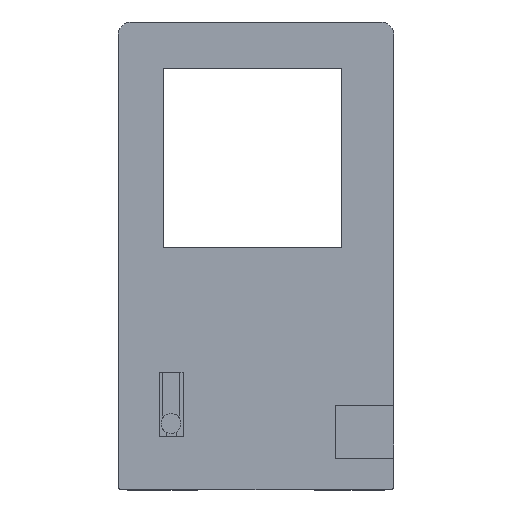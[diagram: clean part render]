
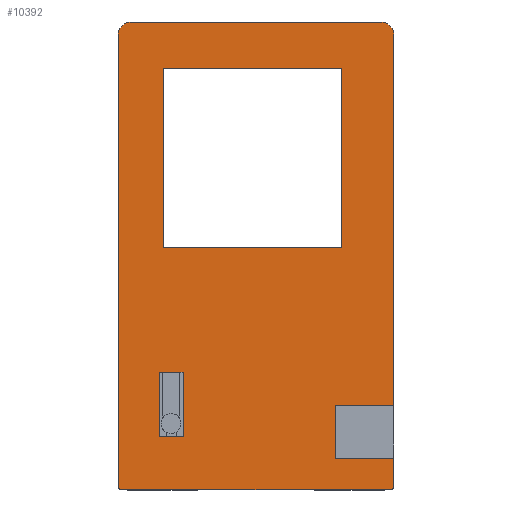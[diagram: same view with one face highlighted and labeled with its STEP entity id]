
A CAD part, top view. The second image highlights one B-rep face of the part: STEP entity #10392.
In plain terms, the highlighted planar face has unit normal (0, 0, 1).
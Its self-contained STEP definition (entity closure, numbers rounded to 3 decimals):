
#10296 = VERTEX_POINT('',#10297);
#10297 = CARTESIAN_POINT('',(16.8,-117.8,15.));
#10344 = VERTEX_POINT('',#10345);
#10345 = CARTESIAN_POINT('',(9.5,-117.8,15.));
#10351 = EDGE_CURVE('',#10296,#10344,#10352,.T.);
#10352 = LINE('',#10353,#10354);
#10353 = CARTESIAN_POINT('',(24.25,-117.8,15.));
#10354 = VECTOR('',#10355,1.);
#10355 = DIRECTION('',(-1.,0.,0.));
#10375 = VERTEX_POINT('',#10376);
#10376 = CARTESIAN_POINT('',(16.8,-98.2,15.));
#10382 = EDGE_CURVE('',#10296,#10375,#10383,.T.);
#10383 = LINE('',#10384,#10385);
#10384 = CARTESIAN_POINT('',(16.8,-90.502,15.));
#10385 = VECTOR('',#10386,1.);
#10386 = DIRECTION('',(0.,1.,0.));
#10392 = ADVANCED_FACE('',(#10393,#10495,#10529),#10547,.T.);
#10393 = FACE_BOUND('',#10394,.T.);
#10394 = EDGE_LOOP('',(#10395,#10405,#10414,#10422,#10431,#10439,#10447,
    #10455,#10463,#10471,#10480,#10488));
#10395 = ORIENTED_EDGE('',*,*,#10396,.F.);
#10396 = EDGE_CURVE('',#10397,#10399,#10401,.T.);
#10397 = VERTEX_POINT('',#10398);
#10398 = CARTESIAN_POINT('',(-3.,-132.8,15.));
#10399 = VERTEX_POINT('',#10400);
#10400 = CARTESIAN_POINT('',(-3.,4.4,15.));
#10401 = LINE('',#10402,#10403);
#10402 = CARTESIAN_POINT('',(-3.,-130.,15.));
#10403 = VECTOR('',#10404,1.);
#10404 = DIRECTION('',(0.,1.,0.));
#10405 = ORIENTED_EDGE('',*,*,#10406,.T.);
#10406 = EDGE_CURVE('',#10397,#10407,#10409,.T.);
#10407 = VERTEX_POINT('',#10408);
#10408 = CARTESIAN_POINT('',(-1.8,-134.,15.));
#10409 = CIRCLE('',#10410,1.2);
#10410 = AXIS2_PLACEMENT_3D('',#10411,#10412,#10413);
#10411 = CARTESIAN_POINT('',(-1.8,-132.8,15.));
#10412 = DIRECTION('',(0.,0.,1.));
#10413 = DIRECTION('',(1.,0.,0.));
#10414 = ORIENTED_EDGE('',*,*,#10415,.T.);
#10415 = EDGE_CURVE('',#10407,#10416,#10418,.T.);
#10416 = VERTEX_POINT('',#10417);
#10417 = CARTESIAN_POINT('',(79.8,-134.,15.));
#10418 = LINE('',#10419,#10420);
#10419 = CARTESIAN_POINT('',(-1.8,-134.,15.));
#10420 = VECTOR('',#10421,1.);
#10421 = DIRECTION('',(1.,0.,0.));
#10422 = ORIENTED_EDGE('',*,*,#10423,.T.);
#10423 = EDGE_CURVE('',#10416,#10424,#10426,.T.);
#10424 = VERTEX_POINT('',#10425);
#10425 = CARTESIAN_POINT('',(81.,-132.8,15.));
#10426 = CIRCLE('',#10427,1.2);
#10427 = AXIS2_PLACEMENT_3D('',#10428,#10429,#10430);
#10428 = CARTESIAN_POINT('',(79.8,-132.8,15.));
#10429 = DIRECTION('',(0.,0.,1.));
#10430 = DIRECTION('',(1.,0.,0.));
#10431 = ORIENTED_EDGE('',*,*,#10432,.T.);
#10432 = EDGE_CURVE('',#10424,#10433,#10435,.T.);
#10433 = VERTEX_POINT('',#10434);
#10434 = CARTESIAN_POINT('',(81.,-124.335,15.));
#10435 = LINE('',#10436,#10437);
#10436 = CARTESIAN_POINT('',(81.,-132.8,15.));
#10437 = VECTOR('',#10438,1.);
#10438 = DIRECTION('',(0.,1.,0.));
#10439 = ORIENTED_EDGE('',*,*,#10440,.T.);
#10440 = EDGE_CURVE('',#10433,#10441,#10443,.T.);
#10441 = VERTEX_POINT('',#10442);
#10442 = CARTESIAN_POINT('',(63.15,-124.335,15.));
#10443 = LINE('',#10444,#10445);
#10444 = CARTESIAN_POINT('',(50.375,-124.335,15.));
#10445 = VECTOR('',#10446,1.);
#10446 = DIRECTION('',(-1.,0.,0.));
#10447 = ORIENTED_EDGE('',*,*,#10448,.T.);
#10448 = EDGE_CURVE('',#10441,#10449,#10451,.T.);
#10449 = VERTEX_POINT('',#10450);
#10450 = CARTESIAN_POINT('',(63.15,-108.335,15.));
#10451 = LINE('',#10452,#10453);
#10452 = CARTESIAN_POINT('',(63.15,-125.735,15.));
#10453 = VECTOR('',#10454,1.);
#10454 = DIRECTION('',(0.,1.,0.));
#10455 = ORIENTED_EDGE('',*,*,#10456,.F.);
#10456 = EDGE_CURVE('',#10457,#10449,#10459,.T.);
#10457 = VERTEX_POINT('',#10458);
#10458 = CARTESIAN_POINT('',(81.,-108.335,15.));
#10459 = LINE('',#10460,#10461);
#10460 = CARTESIAN_POINT('',(50.375,-108.335,15.));
#10461 = VECTOR('',#10462,1.);
#10462 = DIRECTION('',(-1.,0.,0.));
#10463 = ORIENTED_EDGE('',*,*,#10464,.T.);
#10464 = EDGE_CURVE('',#10457,#10465,#10467,.T.);
#10465 = VERTEX_POINT('',#10466);
#10466 = CARTESIAN_POINT('',(81.,4.4,15.));
#10467 = LINE('',#10468,#10469);
#10468 = CARTESIAN_POINT('',(81.,-132.8,15.));
#10469 = VECTOR('',#10470,1.);
#10470 = DIRECTION('',(0.,1.,0.));
#10471 = ORIENTED_EDGE('',*,*,#10472,.T.);
#10472 = EDGE_CURVE('',#10465,#10473,#10475,.T.);
#10473 = VERTEX_POINT('',#10474);
#10474 = CARTESIAN_POINT('',(77.,8.4,15.));
#10475 = CIRCLE('',#10476,4.);
#10476 = AXIS2_PLACEMENT_3D('',#10477,#10478,#10479);
#10477 = CARTESIAN_POINT('',(77.,4.4,15.));
#10478 = DIRECTION('',(0.,0.,1.));
#10479 = DIRECTION('',(1.,0.,0.));
#10480 = ORIENTED_EDGE('',*,*,#10481,.F.);
#10481 = EDGE_CURVE('',#10482,#10473,#10484,.T.);
#10482 = VERTEX_POINT('',#10483);
#10483 = CARTESIAN_POINT('',(1.,8.4,15.));
#10484 = LINE('',#10485,#10486);
#10485 = CARTESIAN_POINT('',(1.,8.4,15.));
#10486 = VECTOR('',#10487,1.);
#10487 = DIRECTION('',(1.,0.,0.));
#10488 = ORIENTED_EDGE('',*,*,#10489,.T.);
#10489 = EDGE_CURVE('',#10482,#10399,#10490,.T.);
#10490 = CIRCLE('',#10491,4.);
#10491 = AXIS2_PLACEMENT_3D('',#10492,#10493,#10494);
#10492 = CARTESIAN_POINT('',(1.,4.4,15.));
#10493 = DIRECTION('',(0.,0.,1.));
#10494 = DIRECTION('',(1.,0.,0.));
#10495 = FACE_BOUND('',#10496,.T.);
#10496 = EDGE_LOOP('',(#10497,#10507,#10515,#10523));
#10497 = ORIENTED_EDGE('',*,*,#10498,.T.);
#10498 = EDGE_CURVE('',#10499,#10501,#10503,.T.);
#10499 = VERTEX_POINT('',#10500);
#10500 = CARTESIAN_POINT('',(65.1,-60.2,15.));
#10501 = VERTEX_POINT('',#10502);
#10502 = CARTESIAN_POINT('',(10.7,-60.2,15.));
#10503 = LINE('',#10504,#10505);
#10504 = CARTESIAN_POINT('',(24.85,-60.2,15.));
#10505 = VECTOR('',#10506,1.);
#10506 = DIRECTION('',(-1.,0.,0.));
#10507 = ORIENTED_EDGE('',*,*,#10508,.T.);
#10508 = EDGE_CURVE('',#10501,#10509,#10511,.T.);
#10509 = VERTEX_POINT('',#10510);
#10510 = CARTESIAN_POINT('',(10.7,-5.8,15.));
#10511 = LINE('',#10512,#10513);
#10512 = CARTESIAN_POINT('',(10.7,-61.702,15.));
#10513 = VECTOR('',#10514,1.);
#10514 = DIRECTION('',(0.,1.,0.));
#10515 = ORIENTED_EDGE('',*,*,#10516,.F.);
#10516 = EDGE_CURVE('',#10517,#10509,#10519,.T.);
#10517 = VERTEX_POINT('',#10518);
#10518 = CARTESIAN_POINT('',(65.1,-5.8,15.));
#10519 = LINE('',#10520,#10521);
#10520 = CARTESIAN_POINT('',(24.85,-5.8,15.));
#10521 = VECTOR('',#10522,1.);
#10522 = DIRECTION('',(-1.,0.,0.));
#10523 = ORIENTED_EDGE('',*,*,#10524,.F.);
#10524 = EDGE_CURVE('',#10499,#10517,#10525,.T.);
#10525 = LINE('',#10526,#10527);
#10526 = CARTESIAN_POINT('',(65.1,-61.702,15.));
#10527 = VECTOR('',#10528,1.);
#10528 = DIRECTION('',(0.,1.,0.));
#10529 = FACE_BOUND('',#10530,.T.);
#10530 = EDGE_LOOP('',(#10531,#10532,#10540,#10546));
#10531 = ORIENTED_EDGE('',*,*,#10351,.T.);
#10532 = ORIENTED_EDGE('',*,*,#10533,.T.);
#10533 = EDGE_CURVE('',#10344,#10534,#10536,.T.);
#10534 = VERTEX_POINT('',#10535);
#10535 = CARTESIAN_POINT('',(9.5,-98.2,15.));
#10536 = LINE('',#10537,#10538);
#10537 = CARTESIAN_POINT('',(9.5,-90.502,15.));
#10538 = VECTOR('',#10539,1.);
#10539 = DIRECTION('',(0.,1.,0.));
#10540 = ORIENTED_EDGE('',*,*,#10541,.F.);
#10541 = EDGE_CURVE('',#10375,#10534,#10542,.T.);
#10542 = LINE('',#10543,#10544);
#10543 = CARTESIAN_POINT('',(24.25,-98.2,15.));
#10544 = VECTOR('',#10545,1.);
#10545 = DIRECTION('',(-1.,0.,0.));
#10546 = ORIENTED_EDGE('',*,*,#10382,.F.);
#10547 = PLANE('',#10548);
#10548 = AXIS2_PLACEMENT_3D('',#10549,#10550,#10551);
#10549 = CARTESIAN_POINT('',(40.85,-67.124,15.));
#10550 = DIRECTION('',(0.,0.,1.));
#10551 = DIRECTION('',(1.,0.,0.));
